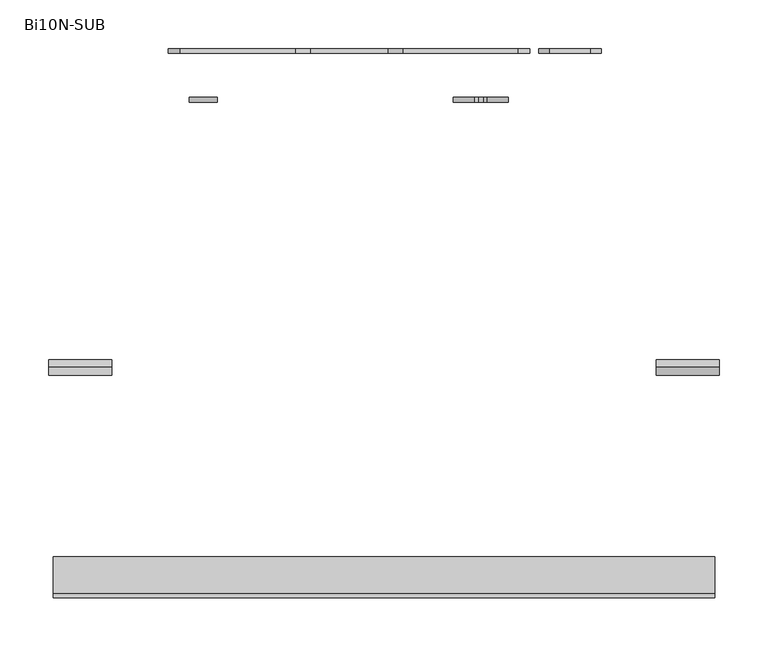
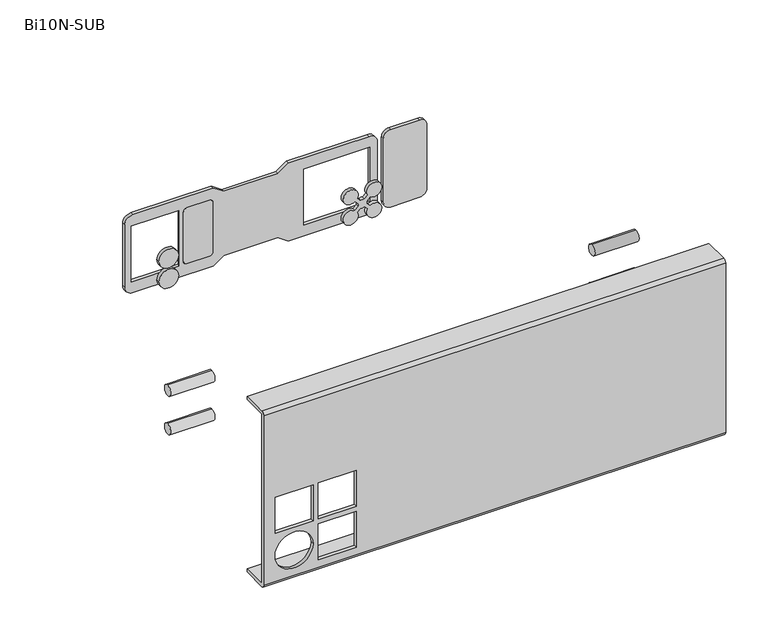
"""IFC4 building model written with IfcOpenShell, lengths in millimetres: proxy geometry, d&b Bi10N-SUB : Bi10N-SUB."""

import ifcopenshell
import ifcopenshell.guid

model = None  # the IFC model being written
_history = None  # IfcOwnerHistory: only IFC2X3 demands one
_inside = {}  # id of a spatial element -> (the spatial element, [elements in it])
_under = {}  # id of a project, library or spatial element -> (it, [spatial elements below it])
_declared = {}  # id of a project -> (the project, [libraries it declares])
_typed = {}  # id of a type object -> (the type object, [elements of that type])
_made_of = {}  # id of a material, layer set ... -> (it, [elements and type objects made of it])


def new_model(schema):
    """Start an empty IFC model of exactly this schema.

    Asked for "IFC4X3", IfcOpenShell would pick the latest addendum, in which some entities
    have other attributes; the version numbers below select the first issue.
    IFC2X3 requires an IfcOwnerHistory on every rooted entity: one is made here for all.
    """
    global model, _history
    if schema == "IFC4X3":
        model = ifcopenshell.file(schema_version=(4, 3, 0, 0))
    else:
        model = ifcopenshell.file(schema=schema)
    _inside.clear()
    _under.clear()
    _declared.clear()
    _typed.clear()
    _made_of.clear()
    _history = None
    if model.schema == "IFC2X3":
        org = make("IfcOrganization", Name="unknown")
        user = make(
            "IfcPersonAndOrganization",
            ThePerson=make("IfcPerson", FamilyName="unknown"),
            TheOrganization=org,
        )
        app = make(
            "IfcApplication",
            ApplicationDeveloper=org,
            Version="unknown",
            ApplicationFullName="unknown",
            ApplicationIdentifier="unknown",
        )
        _history = make(
            "IfcOwnerHistory",
            OwningUser=user,
            OwningApplication=app,
            ChangeAction="ADDED",
            CreationDate=0,
        )
    return model


def make(cls, **values):
    """One entity of the class cls with the attributes given. An attribute that is None is left unset."""
    return model.create_entity(
        cls, **{name: value for name, value in values.items() if value is not None}
    )


def rooted(cls, **values):
    """An entity with a GlobalId (a new one), such as an element, a storey or a relation."""
    return make(cls, GlobalId=ifcopenshell.guid.new(), OwnerHistory=_history, **values)


def si_unit(unit_type, name, prefix=None):
    """IfcSIUnit, for example si_unit("LENGTHUNIT", "METRE", prefix="MILLI")."""
    return make("IfcSIUnit", UnitType=unit_type, Prefix=prefix, Name=name)


def assignment(units):
    """IfcUnitAssignment: the units of a project."""
    return None if units is None else make("IfcUnitAssignment", Units=units)


def point(xyz):
    """IfcCartesianPoint."""
    return None if xyz is None else make("IfcCartesianPoint", Coordinates=xyz)


def direction(xyz):
    """IfcDirection."""
    return None if xyz is None else make("IfcDirection", DirectionRatios=xyz)


def frame(location, z_axis=None, x_axis=None):
    """IfcAxis2Placement3D, a coordinate frame: its origin and axes. An axis left out is left unset."""
    return make(
        "IfcAxis2Placement3D",
        Location=point(location),
        Axis=direction(z_axis),
        RefDirection=direction(x_axis),
    )


def frame_2d(location, x_axis=None):
    """IfcAxis2Placement2D, a coordinate frame in the plane: its origin and x axis."""
    return make(
        "IfcAxis2Placement2D", Location=point(location), RefDirection=direction(x_axis)
    )


def origin():
    """The frame at (0, 0, 0) with its axes left unset."""
    return frame((0.0, 0.0, 0.0))


def place(relative_to, where):
    """IfcLocalPlacement: puts the frame where relative to a parent placement (None: the world)."""
    return make(
        "IfcLocalPlacement", PlacementRelTo=relative_to, RelativePlacement=where
    )


def context(
    kind, dimensions, precision=None, world=None, true_north=None, identifier=None
):
    """IfcGeometricRepresentationContext, for example the 3D "Model" context."""
    return make(
        "IfcGeometricRepresentationContext",
        ContextIdentifier=identifier,
        ContextType=kind,
        CoordinateSpaceDimension=dimensions,
        Precision=precision,
        WorldCoordinateSystem=world,
        TrueNorth=true_north,
    )


def project(units=None, contexts=None):
    """IfcProject with its units and contexts."""
    return rooted(
        "IfcProject",
        Name="project",
        RepresentationContexts=contexts,
        UnitsInContext=assignment(units),
    )


def spatial(cls, under=None, at=None, **own):
    """A site, building, storey or space (cls), placed at a placement, below another one or the project."""
    s = rooted(cls, ObjectPlacement=at, **own)
    if under is not None:
        _under.setdefault(under.id(), (under, []))[1].append(s)
    return s


def polyline(points):
    """IfcPolyline through the points."""
    return make("IfcPolyline", Points=[point(p) for p in points])


def circle_curve(where, radius):
    """IfcCircle in the frame where."""
    return make("IfcCircle", Position=where, Radius=radius)


def trimmed(basis, trim1, trim2, sense, master):
    """IfcTrimmedCurve: the piece of a basis curve between two trims."""
    return make(
        "IfcTrimmedCurve",
        BasisCurve=basis,
        Trim1=trim1,
        Trim2=trim2,
        SenseAgreement=sense,
        MasterRepresentation=master,
    )


def segment(curve, same_sense, transition):
    """IfcCompositeCurveSegment."""
    return make(
        "IfcCompositeCurveSegment",
        Transition=transition,
        SameSense=same_sense,
        ParentCurve=curve,
    )


def composite_curve(segments, self_intersect=None):
    """IfcCompositeCurve: segments joined end to end."""
    return make("IfcCompositeCurve", Segments=segments, SelfIntersect=self_intersect)


def outline(outer, holes=None, kind="AREA"):
    """IfcArbitraryClosedProfileDef: a profile drawn as a closed curve; with holes, ...WithVoids."""
    if holes is None:
        return make("IfcArbitraryClosedProfileDef", ProfileType=kind, OuterCurve=outer)
    return make(
        "IfcArbitraryProfileDefWithVoids",
        ProfileType=kind,
        OuterCurve=outer,
        InnerCurves=holes,
    )


def extrude(swept, where, along, depth):
    """IfcExtrudedAreaSolid: the profile swept, set in the frame where, extruded along a direction by depth."""
    return make(
        "IfcExtrudedAreaSolid",
        SweptArea=swept,
        Position=where,
        ExtrudedDirection=direction(along),
        Depth=depth,
    )


def shape(context_of_items, identifier, shape_type, items):
    """IfcShapeRepresentation: the items that make up one representation, for example the "Body"."""
    return make(
        "IfcShapeRepresentation",
        ContextOfItems=context_of_items,
        RepresentationIdentifier=identifier,
        RepresentationType=shape_type,
        Items=items,
    )


def source(mapping_origin, context_of_items, identifier, shape_type, items):
    """IfcRepresentationMap: a shape defined once, which mapped items show again and again."""
    return make(
        "IfcRepresentationMap",
        MappingOrigin=mapping_origin,
        MappedRepresentation=shape(context_of_items, identifier, shape_type, items),
    )


def transform(
    local_origin,
    x_axis=None,
    y_axis=None,
    z_axis=None,
    scale=None,
    scale2=None,
    scale3=None,
    uniform=True,
):
    """IfcCartesianTransformationOperator3D, or its non-uniform kind. x_axis, y_axis, z_axis: its Axis1, 2, 3."""
    if uniform:
        return make(
            "IfcCartesianTransformationOperator3D",
            Axis1=direction(x_axis),
            Axis2=direction(y_axis),
            LocalOrigin=point(local_origin),
            Scale=scale,
            Axis3=direction(z_axis),
        )
    return make(
        "IfcCartesianTransformationOperator3DnonUniform",
        Axis1=direction(x_axis),
        Axis2=direction(y_axis),
        LocalOrigin=point(local_origin),
        Scale=scale,
        Axis3=direction(z_axis),
        Scale2=scale2,
        Scale3=scale3,
    )


def mapped(mapping_source, mapping_target):
    """IfcMappedItem: shows the shape of a source again, moved by a transform."""
    return make(
        "IfcMappedItem", MappingSource=mapping_source, MappingTarget=mapping_target
    )


def made_of(thing, what):
    """Note that an element or type object is made of a material, layer set ...; save() writes the relation."""
    if what is not None:
        _made_of.setdefault(what.id(), (what, []))[1].append(thing)
    return thing


def element(
    cls,
    number,
    at=None,
    inside=None,
    cuts=None,
    type_object=None,
    material=None,
    context=None,
    identifier="Body",
    shape_type=None,
    held_by="IfcProductDefinitionShape",
    body=None,
    shapes=None,
    **own,
):
    """One element of the class cls, such as IfcWall. Its Tag is "e" and its number.

    at: its placement. inside: the storey or other place that contains it. cuts: it is an
    opening in that element (IfcRelVoidsElement). A single representation is given by context,
    identifier, shape_type and body (its items); several are given by shapes. held_by: the class
    of the entity that holds the representations. save() writes the other relations.
    """
    e = rooted(cls, Tag="e%d" % number, ObjectPlacement=at, **own)
    if body is not None:
        shapes = [shape(context, identifier, shape_type, body)]
    if shapes is not None:
        e.Representation = make(held_by, Representations=shapes)
    if inside is not None:
        _inside.setdefault(inside.id(), (inside, []))[1].append(e)
    if cuts is not None:
        rooted(
            "IfcRelVoidsElement", RelatingBuildingElement=cuts, RelatedOpeningElement=e
        )
    if type_object is not None:
        _typed.setdefault(type_object.id(), (type_object, []))[1].append(e)
    return made_of(e, material)


def aggregate(whole, parts):
    """IfcRelAggregates: a whole, such as a stair, and the parts it consists of."""
    return rooted("IfcRelAggregates", RelatingObject=whole, RelatedObjects=parts)


def save(model, path):
    """Write the relations noted so far, then the file.

    IfcRelAggregates (storeys below a building ...), IfcRelContainedInSpatialStructure (elements
    in a storey), IfcRelDefinesByType, IfcRelAssociatesMaterial and IfcRelDeclares: one each for
    every whole, place, type object, material and project.
    """
    for whole, parts in _under.values():
        aggregate(whole, parts)
    for where, things in _inside.values():
        rooted(
            "IfcRelContainedInSpatialStructure",
            RelatedElements=things,
            RelatingStructure=where,
        )
    for kind, things in _typed.values():
        rooted("IfcRelDefinesByType", RelatedObjects=things, RelatingType=kind)
    for what, things in _made_of.values():
        rooted("IfcRelAssociatesMaterial", RelatedObjects=things, RelatingMaterial=what)
    for by, libraries in _declared.values():
        rooted("IfcRelDeclares", RelatingContext=by, RelatedDefinitions=libraries)
    model.write(path)


def plane_surface(at):
    """IfcPlane: the flat surface through the origin of the frame at, square to its z axis."""
    return make("IfcPlane", Position=at)


def cylinder_surface(at, radius):
    """IfcCylindricalSurface: all points at the distance radius from the z axis of the frame at."""
    return make("IfcCylindricalSurface", Position=at, Radius=radius)


def revolved_surface(curve, axis_point, axis_direction):
    """IfcSurfaceOfRevolution: the curve turned about the line through axis_point along axis_direction."""
    return make(
        "IfcSurfaceOfRevolution",
        SweptCurve=make("IfcArbitraryOpenProfileDef", ProfileType="CURVE", Curve=curve),
        AxisPosition=make("IfcAxis1Placement", Location=point(axis_point), Axis=direction(axis_direction)),
    )


def advanced_brep(points, edges, surfaces, faces):
    """IfcAdvancedBrep: a solid bounded by faces that lie on surfaces and meet in shared edges.

    An edge is (start, end): straight between two places in points (the first is 0);
    or (start, end, curve); or (start, end, curve, False) where it runs against its curve.
    A face is (place in surfaces, loops), or (place, loops, False) where it looks against
    its surface's normal. A loop lists edges by number (the first is 1), with a minus sign
    where the edge is run from its end to its start. The first loop is the outer one.
    """
    corners = [point(p) for p in points]
    vertices = [make("IfcVertexPoint", VertexGeometry=c) for c in corners]
    made = []
    for start, end, *more in edges:
        made.append(
            make(
                "IfcEdgeCurve",
                EdgeStart=vertices[start],
                EdgeEnd=vertices[end],
                EdgeGeometry=more[0] if more else make("IfcPolyline", Points=[corners[start], corners[end]]),
                SameSense=more[1] if len(more) > 1 else True,
            )
        )
    hull = []
    for where, loops, *sense in faces:
        bounds = []
        for j, loop in enumerate(loops):
            ring = [make("IfcOrientedEdge", EdgeElement=made[abs(k) - 1], Orientation=k > 0) for k in loop]
            bounds.append(
                make(
                    "IfcFaceOuterBound" if j == 0 else "IfcFaceBound",
                    Bound=make("IfcEdgeLoop", EdgeList=ring),
                    Orientation=True,
                )
            )
        hull.append(make("IfcAdvancedFace", Bounds=bounds, FaceSurface=surfaces[where], SameSense=sense[0] if sense else True))
    return make("IfcAdvancedBrep", Outer=make("IfcClosedShell", CfsFaces=hull))


def bi10n_sub_a82419cd(model_context):
    return source(origin(), model_context, "Body", "SolidModel", [
        extrude(outline(composite_curve([segment(trimmed(circle_curve(frame_2d((156.4999199, 2314.0000039)), 14.5), [point((156.4999199, 2328.5000039))], [point((156.4999199, 2299.5000039))], False, "CARTESIAN"), True, "CONTINUOUS"), segment(trimmed(circle_curve(frame_2d((156.4999199, 2314.0000039)), 14.5), [point((156.4999199, 2299.5000039))], [point((156.4999199, 2328.5000039))], False, "CARTESIAN"), True, "CONTINUOUS")], self_intersect=False)), frame((0.0, 449.0471889, 0.0), z_axis=(0.0, 1.0, 0.0), x_axis=(0.0, 0.0, 1.0)), (0.0, 0.0, 1.0), 5.2034084),
        extrude(outline(composite_curve([segment(trimmed(circle_curve(frame_2d((124.9999199, 2314.0000958)), 14.5), [point((124.9999199, 2328.5000958))], [point((124.9999199, 2299.5000958))], False, "CARTESIAN"), True, "CONTINUOUS"), segment(trimmed(circle_curve(frame_2d((124.9999199, 2314.0000958)), 14.5), [point((124.9999199, 2299.5000958))], [point((124.9999199, 2328.5000958))], False, "CARTESIAN"), True, "CONTINUOUS")], self_intersect=False)), frame((0.0, 449.0471889, 0.0), z_axis=(0.0, 1.0, 0.0), x_axis=(0.0, 0.0, 1.0)), (0.0, 0.0, 1.0), 5.2034084),
        extrude(outline(composite_curve([segment(polyline([(135.0668453, 2610.7876173), (139.8025463, 2605.6079468)]), True, "CONTINUOUS"), segment(trimmed(circle_curve(frame_2d((141.9996546, 2599.4998911)), 6.4911963), [point((139.8025463, 2605.6079468))], [point((144.1972827, 2605.6077598))], False, "CARTESIAN"), True, "CONTINUOUS"), segment(polyline([(144.1972827, 2605.6077598), (148.9331547, 2610.7876173)]), True, "CONTINUOUS"), segment(trimmed(circle_curve(frame_2d((158.0003519, 2616.9998899)), 10.9911963), [point((148.9331547, 2610.7876173))], [point((152.623298, 2607.4137704))], False, "CARTESIAN"), True, "CONTINUOUS"), segment(polyline([(152.623298, 2607.4137704), (147.8871389, 2602.2335989)]), True, "CONTINUOUS"), segment(trimmed(circle_curve(frame_2d((141.9996546, 2599.4998911)), 6.4911963), [point((147.8871389, 2602.2335989))], [point((147.8871389, 2596.7661832))], False, "CARTESIAN"), True, "CONTINUOUS"), segment(polyline([(147.8871389, 2596.7661832), (152.623298, 2591.5860117)]), True, "CONTINUOUS"), segment(trimmed(circle_curve(frame_2d((158.0003519, 2581.9998922)), 10.9911963), [point((152.623298, 2591.5860117))], [point((148.9331547, 2588.2121648))], False, "CARTESIAN"), True, "CONTINUOUS"), segment(polyline([(148.9331547, 2588.2121648), (144.1972827, 2593.3920224)]), True, "CONTINUOUS"), segment(trimmed(circle_curve(frame_2d((141.9996546, 2599.4998911)), 6.4911963), [point((144.1972827, 2593.3920224))], [point((139.8025463, 2593.3918354))], False, "CARTESIAN"), True, "CONTINUOUS"), segment(polyline([(139.8025463, 2593.3918354), (135.0668453, 2588.2121648)]), True, "CONTINUOUS"), segment(trimmed(circle_curve(frame_2d((125.9996481, 2581.9998922)), 10.9911963), [point((135.0668453, 2588.2121648))], [point((131.376702, 2591.5860117))], False, "CARTESIAN"), True, "CONTINUOUS"), segment(polyline([(131.376702, 2591.5860117), (136.112403, 2596.7656822)]), True, "CONTINUOUS"), segment(trimmed(circle_curve(frame_2d((141.9996546, 2599.4998911)), 6.4911963), [point((136.112403, 2596.7656822))], [point((136.112403, 2602.2340999))], False, "CARTESIAN"), True, "CONTINUOUS"), segment(polyline([(136.112403, 2602.2340999), (131.376702, 2607.4137704)]), True, "CONTINUOUS"), segment(trimmed(circle_curve(frame_2d((125.9996481, 2616.9998899)), 10.9911963), [point((131.376702, 2607.4137704))], [point((135.0668453, 2610.7876173))], False, "CARTESIAN"), True, "CONTINUOUS")], self_intersect=False)), frame((0.0, 449.0471889, 0.0), z_axis=(0.0, 1.0, 0.0), x_axis=(0.0, 0.0, 1.0)), (0.0, 0.0, 1.0), 5.2034084),
        advanced_brep(
        [(2840.2, -60.7494027, 10.0), (2840.2, -55.7494027, 5.0), (2840.2, -18.2494027, 5.0), (2840.2, -18.2494027, 10.0), (2840.2, -55.7494027, 10.0), (2840.2, -55.7494027, 274.0), (2840.2, -18.2494027, 274.0), (2840.2, -18.2494027, 279.0), (2840.2, -55.7494027, 279.0), (2840.2, -60.7494027, 274.0), (2159.8, -60.7494027, 10.0), (2159.8, -60.7494027, 274.0), (2159.8, -55.7494027, 279.0), (2159.8, -18.2494027, 279.0), (2159.8, -18.2494027, 274.0), (2159.8, -55.7494027, 274.0), (2159.8, -55.7494027, 10.0), (2159.8, -18.2494027, 10.0), (2159.8, -18.2494027, 5.0), (2159.8, -55.7494027, 5.0), (2232.3, -55.7494027, 85.5), (2232.3, -55.7494027, 141.5), (2176.3, -55.7494027, 141.5), (2176.3, -55.7494027, 85.5), (2296.3, -55.7494027, 85.5), (2296.3, -55.7494027, 141.5), (2240.3, -55.7494027, 141.5), (2240.3, -55.7494027, 85.5), (2296.3, -55.7494027, 21.5), (2296.3, -55.7494027, 77.5), (2240.3, -55.7494027, 77.5), (2240.3, -55.7494027, 21.5), (2176.3, -55.7494027, 49.5), (2232.3, -55.7494027, 49.5), (2232.3, -60.7494027, 141.5), (2232.3, -60.7494027, 85.5), (2176.3, -60.7494027, 85.5), (2176.3, -60.7494027, 141.5), (2296.3, -60.7494027, 141.5), (2296.3, -60.7494027, 85.5), (2240.3, -60.7494027, 85.5), (2240.3, -60.7494027, 141.5), (2296.3, -60.7494027, 77.5), (2296.3, -60.7494027, 21.5), (2240.3, -60.7494027, 21.5), (2240.3, -60.7494027, 77.5), (2232.3, -60.7494027, 49.5), (2176.3, -60.7494027, 49.5)],
        [
            (0, 1, circle_curve(frame((2840.2, -55.7494027, 10.0), z_axis=(1.0, 0.0, 0.0), x_axis=(0.0, 1.0, 0.0)), 5.0)),
            (1, 2),
            (2, 3),
            (3, 4),
            (4, 5),
            (5, 6),
            (6, 7),
            (7, 8),
            (8, 9, circle_curve(frame((2840.2, -55.7494027, 274.0), z_axis=(1.0, 0.0, 0.0), x_axis=(0.0, 1.0, 0.0)), 5.0)),
            (9, 0),
            (10, 11),
            (11, 12, circle_curve(frame((2159.8, -55.7494027, 274.0), z_axis=(-1.0, 0.0, 0.0), x_axis=(0.0, 1.0, 0.0)), 5.0)),
            (12, 13),
            (13, 14),
            (14, 15),
            (15, 16),
            (16, 17),
            (17, 18),
            (18, 19),
            (19, 10, circle_curve(frame((2159.8, -55.7494027, 10.0), z_axis=(-1.0, 0.0, 0.0), x_axis=(0.0, 1.0, 0.0)), 5.0)),
            (4, 16),
            (15, 5),
            (20, 21),
            (21, 22),
            (22, 23),
            (23, 20),
            (24, 25),
            (25, 26),
            (26, 27),
            (27, 24),
            (28, 29),
            (29, 30),
            (30, 31),
            (31, 28),
            (32, 33, circle_curve(frame((2204.3, -55.7494027, 49.5), z_axis=(0.0, -1.0, 0.0), x_axis=(-1.0, 0.0, 0.0)), 28.0)),
            (33, 32, circle_curve(frame((2204.3, -55.7494027, 49.5), z_axis=(0.0, -1.0, 0.0), x_axis=(-1.0, 0.0, 0.0)), 28.0)),
            (14, 6),
            (9, 11),
            (10, 0),
            (34, 35),
            (35, 36),
            (36, 37),
            (37, 34),
            (38, 39),
            (39, 40),
            (40, 41),
            (41, 38),
            (42, 43),
            (43, 44),
            (44, 45),
            (45, 42),
            (46, 47, circle_curve(frame((2204.3, -60.7494027, 49.5), z_axis=(0.0, 1.0, 0.0), x_axis=(-1.0, 0.0, 0.0)), 28.0)),
            (47, 46, circle_curve(frame((2204.3, -60.7494027, 49.5), z_axis=(0.0, 1.0, 0.0), x_axis=(-1.0, 0.0, 0.0)), 28.0)),
            (34, 21),
            (20, 35),
            (23, 36),
            (37, 22),
            (38, 25),
            (24, 39),
            (27, 40),
            (26, 41),
            (42, 29),
            (28, 43),
            (31, 44),
            (30, 45),
            (46, 33),
            (32, 47),
            (3, 17),
            (13, 7),
            (12, 8),
            (19, 1),
            (18, 2),
        ],
        [
            plane_surface(frame((2840.2, -50.7494027, 10.0), z_axis=(1.0, 0.0, 0.0), x_axis=(0.0, 0.0, 1.0))),
            plane_surface(frame((2159.8, -50.7494027, 10.0), z_axis=(-1.0, 0.0, 0.0), x_axis=(0.0, 0.0, -1.0))),
            plane_surface(frame((2840.2, -55.7494027, 10.0), z_axis=(0.0, 1.0, 0.0), x_axis=(-1.0, 0.0, 0.0))),
            plane_surface(frame((2840.2, -55.7494027, 274.0), z_axis=(0.0, 0.0, -1.0), x_axis=(-1.0, 0.0, 0.0))),
            plane_surface(frame((2840.2, -60.7494027, 274.0), z_axis=(0.0, -1.0, 0.0), x_axis=(-1.0, 0.0, 0.0))),
            plane_surface(frame((2232.3, -50.7494027, 141.5), z_axis=(-1.0, 0.0, 0.0), x_axis=(0.0, -1.0, 0.0))),
            plane_surface(frame((2232.3, -50.7494027, 85.5), z_axis=(0.0, 0.0, 1.0), x_axis=(0.0, -1.0, 0.0))),
            plane_surface(frame((2176.3, -50.7494027, 141.5), z_axis=(0.0, 0.0, -1.0), x_axis=(0.0, -1.0, 0.0))),
            plane_surface(frame((2296.3, -50.7494027, 141.5), z_axis=(-1.0, 0.0, 0.0), x_axis=(0.0, -1.0, 0.0))),
            plane_surface(frame((2296.3, -50.7494027, 85.5), z_axis=(0.0, 0.0, 1.0), x_axis=(0.0, -1.0, 0.0))),
            plane_surface(frame((2240.3, -50.7494027, 85.5), z_axis=(1.0, 0.0, 0.0), x_axis=(0.0, -1.0, 0.0))),
            plane_surface(frame((2240.3, -50.7494027, 141.5), z_axis=(0.0, 0.0, -1.0), x_axis=(0.0, -1.0, 0.0))),
            plane_surface(frame((2296.3, -50.7494027, 77.5), z_axis=(-1.0, 0.0, 0.0), x_axis=(0.0, -1.0, 0.0))),
            plane_surface(frame((2296.3, -50.7494027, 21.5), z_axis=(0.0, 0.0, 1.0), x_axis=(0.0, -1.0, 0.0))),
            plane_surface(frame((2240.3, -50.7494027, 21.5), z_axis=(1.0, 0.0, 0.0), x_axis=(0.0, -1.0, 0.0))),
            plane_surface(frame((2240.3, -50.7494027, 77.5), z_axis=(0.0, 0.0, -1.0), x_axis=(0.0, -1.0, 0.0))),
            revolved_surface(polyline([(2176.3, -55.7494027, 49.5), (2176.3, -60.7494027, 49.5)]), (2204.3, -60.7494027, 49.5), (0.0, 1.0, 0.0)),
            plane_surface(frame((2840.2, -18.2494027, 10.0), z_axis=(0.0, 0.0, 1.0), x_axis=(-1.0, 0.0, 0.0))),
            plane_surface(frame((2840.2, -18.2494027, 274.0), z_axis=(0.0, 1.0, 0.0), x_axis=(-1.0, 0.0, 0.0))),
            plane_surface(frame((2840.2, -18.2494027, 279.0), z_axis=(0.0, 0.0, 1.0), x_axis=(-1.0, 0.0, 0.0))),
            cylinder_surface(frame((2159.8, -55.7494027, 10.0), z_axis=(1.0, 0.0, 0.0), x_axis=(0.0, 1.0, 0.0)), 5.0),
            plane_surface(frame((2840.2, -55.7494027, 5.0), z_axis=(0.0, 0.0, -1.0), x_axis=(-1.0, 0.0, 0.0))),
            plane_surface(frame((2840.2, -18.2494027, 5.0), z_axis=(0.0, 1.0, 0.0), x_axis=(-1.0, 0.0, 0.0))),
            cylinder_surface(frame((2159.8, -55.7494027, 274.0), z_axis=(1.0, 0.0, 0.0), x_axis=(0.0, 1.0, 0.0)), 5.0),
            plane_surface(frame((2176.3, -50.7494027, 85.5), z_axis=(1.0, 0.0, 0.0), x_axis=(0.0, -1.0, 0.0))),
        ],
        [
            (0, [[1, 2, 3, 4, 5, 6, 7, 8, 9, 10]]),
            (1, [[11, 12, 13, 14, 15, 16, 17, 18, 19, 20]]),
            (2, [[-5, 21, -16, 22], [23, 24, 25, 26], [27, 28, 29, 30], [31, 32, 33, 34], [35, 36]]),
            (3, [[-6, -22, -15, 37]]),
            (4, [[-10, 38, -11, 39], [40, 41, 42, 43], [44, 45, 46, 47], [48, 49, 50, 51], [52, 53]]),
            (5, [[54, -23, 55, -40]]),
            (6, [[-55, -26, 56, -41]]),
            (7, [[-54, -43, 57, -24]]),
            (8, [[58, -27, 59, -44]]),
            (9, [[-59, -30, 60, -45]]),
            (10, [[-60, -29, 61, -46]]),
            (11, [[-58, -47, -61, -28]]),
            (12, [[62, -31, 63, -48]]),
            (13, [[-63, -34, 64, -49]]),
            (14, [[-64, -33, 65, -50]]),
            (15, [[-62, -51, -65, -32]]),
            (16, [[66, -35, 67, -52]]),
            (16, [[-66, -53, -67, -36]]),
            (17, [[-4, 68, -17, -21]]),
            (18, [[-7, -37, -14, 69]]),
            (19, [[-8, -69, -13, 70]]),
            (20, [[-1, -39, -20, 71]]),
            (21, [[-2, -71, -19, 72]]),
            (22, [[-3, -72, -18, -68]]),
            (23, [[-9, -70, -12, -38]]),
            (24, [[-57, -42, -56, -25]]),
        ],
    ),
        extrude(outline(composite_curve([segment(trimmed(circle_curve(frame_2d((176.2505973, 172.0)), 8.1), [point((176.2505973, 163.9))], [point((176.2505973, 180.1))], False, "CARTESIAN"), True, "CONTINUOUS"), segment(trimmed(circle_curve(frame_2d((176.2505973, 172.0)), 8.1), [point((176.2505973, 180.1))], [point((176.2505973, 163.9))], False, "CARTESIAN"), True, "CONTINUOUS")], self_intersect=False)), frame((2155.0, 0.0, 0.0), z_axis=(1.0, 0.0, 0.0), x_axis=(0.0, 1.0, 0.0)), (0.0, 0.0, 1.0), 65.0),
        extrude(outline(composite_curve([segment(trimmed(circle_curve(frame_2d((176.2505973, 112.0)), 8.1), [point((176.2505973, 103.9))], [point((176.2505973, 120.1))], False, "CARTESIAN"), True, "CONTINUOUS"), segment(trimmed(circle_curve(frame_2d((176.2505973, 112.0)), 8.1), [point((176.2505973, 120.1))], [point((176.2505973, 103.9))], False, "CARTESIAN"), True, "CONTINUOUS")], self_intersect=False)), frame((2155.0, 0.0, 0.0), z_axis=(1.0, 0.0, 0.0), x_axis=(0.0, 1.0, 0.0)), (0.0, 0.0, 1.0), 65.0),
        extrude(outline(composite_curve([segment(trimmed(circle_curve(frame_2d((176.2505973, 172.0)), 8.1), [point((176.2505973, 163.9))], [point((176.2505973, 180.1))], False, "CARTESIAN"), True, "CONTINUOUS"), segment(trimmed(circle_curve(frame_2d((176.2505973, 172.0)), 8.1), [point((176.2505973, 180.1))], [point((176.2505973, 163.9))], False, "CARTESIAN"), True, "CONTINUOUS")], self_intersect=False)), frame((2780.0, 0.0, 0.0), z_axis=(1.0, 0.0, 0.0), x_axis=(0.0, 1.0, 0.0)), (0.0, 0.0, 1.0), 65.0),
        extrude(outline(composite_curve([segment(trimmed(circle_curve(frame_2d((176.2505973, 112.0)), 8.1), [point((176.2505973, 103.9))], [point((176.2505973, 120.1))], False, "CARTESIAN"), True, "CONTINUOUS"), segment(trimmed(circle_curve(frame_2d((176.2505973, 112.0)), 8.1), [point((176.2505973, 120.1))], [point((176.2505973, 103.9))], False, "CARTESIAN"), True, "CONTINUOUS")], self_intersect=False)), frame((2780.0, 0.0, 0.0), z_axis=(1.0, 0.0, 0.0), x_axis=(0.0, 1.0, 0.0)), (0.0, 0.0, 1.0), 65.0),
        extrude(outline(composite_curve([segment(trimmed(circle_curve(frame_2d((180.5005283, 2369.7014503)), 5.0), [point((185.5005283, 2369.7014503))], [point((180.5005283, 2364.7014503))], False, "CARTESIAN"), True, "CONTINUOUS"), segment(polyline([(180.5005283, 2364.7014503), (103.5432161, 2364.7014503)]), True, "CONTINUOUS"), segment(trimmed(circle_curve(frame_2d((103.5432161, 2369.7014503)), 5.0), [point((103.5432161, 2364.7014503))], [point((98.5432161, 2369.7014503))], False, "CARTESIAN"), True, "CONTINUOUS"), segment(polyline([(98.5432161, 2369.7014503), (98.5432161, 2403.2014503)]), True, "CONTINUOUS"), segment(trimmed(circle_curve(frame_2d((103.5432161, 2403.2014503)), 5.0), [point((98.5432161, 2403.2014503))], [point((103.5432161, 2408.2014503))], False, "CARTESIAN"), True, "CONTINUOUS"), segment(polyline([(103.5432161, 2408.2014503), (180.5005283, 2408.2014503)]), True, "CONTINUOUS"), segment(trimmed(circle_curve(frame_2d((180.5005283, 2403.2014503)), 5.0), [point((180.5005283, 2408.2014503))], [point((185.5005283, 2403.2014503))], False, "CARTESIAN"), True, "CONTINUOUS"), segment(polyline([(185.5005283, 2403.2014503), (185.5005283, 2369.7014503)]), True, "CONTINUOUS")], self_intersect=False)), frame((0.0, 499.2505973, 0.0), z_axis=(0.0, 1.0, 0.0), x_axis=(0.0, 0.0, 1.0)), (0.0, 0.0, 1.0), 5.0),
        advanced_brep(
        [(2359.7014503, 504.2505973, 185.5005283), (2357.9303168, 499.2505973, 185.5005283), (2287.8529944, 499.2505973, 185.5005283), (2287.8529944, 504.2505973, 185.5005283), (2359.7014503, 504.2505973, 98.5432161), (2357.9303168, 499.2505973, 98.5432161), (2287.8529944, 504.2505973, 98.5432161), (2287.8529944, 499.2505973, 98.5432161), (2638.1470134, 504.2505973, 202.6470095), (2650.1470134, 504.2505973, 190.6470095), (2650.1470134, 504.2505973, 93.3529905), (2638.1470134, 504.2505973, 81.3529905), (2519.153425, 504.2505973, 81.3529905), (2503.926988, 504.2505973, 91.8529905), (2424.073012, 504.2505973, 91.8529905), (2408.846575, 504.2505973, 81.3529905), (2289.8529944, 504.2505973, 81.3529905), (2277.8529944, 504.2505973, 93.3529905), (2277.8529944, 504.2505973, 190.6470095), (2289.8529944, 504.2505973, 202.6470095), (2408.846575, 504.2505973, 202.6470095), (2424.073012, 504.2505973, 192.1470095), (2503.926988, 504.2505973, 192.1470095), (2519.153425, 504.2505973, 202.6470095), (2369.7014503, 504.2505973, 185.5005283), (2364.7014503, 504.2505973, 180.5005283), (2364.7014503, 504.2505973, 103.5432161), (2369.7014503, 504.2505973, 98.5432161), (2403.2014503, 504.2505973, 98.5432161), (2408.2014503, 504.2505973, 103.5432161), (2408.2014503, 504.2505973, 180.5005283), (2403.2014503, 504.2505973, 185.5005283), (2640.1470134, 504.2505973, 185.5005283), (2539.950208, 504.2505973, 185.5005283), (2539.950208, 504.2505973, 98.5432161), (2640.1470134, 504.2505973, 98.5432161), (2638.1470134, 499.2505973, 202.6470095), (2519.153425, 499.2505973, 202.6470095), (2503.926988, 499.2505973, 192.1470095), (2424.073012, 499.2505973, 192.1470095), (2408.846575, 499.2505973, 202.6470095), (2289.8529944, 499.2505973, 202.6470095), (2277.8529944, 499.2505973, 190.6470095), (2277.8529944, 499.2505973, 93.3529905), (2289.8529944, 499.2505973, 81.3529905), (2408.846575, 499.2505973, 81.3529905), (2424.073012, 499.2505973, 91.8529905), (2503.926988, 499.2505973, 91.8529905), (2519.153425, 499.2505973, 81.3529905), (2638.1470134, 499.2505973, 81.3529905), (2650.1470134, 499.2505973, 93.3529905), (2650.1470134, 499.2505973, 190.6470095), (2369.7014503, 499.2505973, 185.5005283), (2403.2014503, 499.2505973, 185.5005283), (2408.2014503, 499.2505973, 180.5005283), (2408.2014503, 499.2505973, 103.5432161), (2403.2014503, 499.2505973, 98.5432161), (2369.7014503, 499.2505973, 98.5432161), (2364.7014503, 499.2505973, 103.5432161), (2364.7014503, 499.2505973, 180.5005283), (2542.01192, 499.2505973, 185.5005283), (2638.9562346, 499.2505973, 185.5005283), (2638.9562346, 499.2505973, 98.5432161), (2542.01192, 499.2505973, 98.5432161)],
        [
            (0, 1),
            (1, 2),
            (2, 3),
            (3, 0),
            (0, 4),
            (4, 5),
            (5, 1),
            (4, 6),
            (6, 7),
            (7, 5),
            (2, 7),
            (6, 3),
            (8, 9, circle_curve(frame((2638.1470134, 504.2505973, 190.6470095), z_axis=(0.0, 1.0, 0.0), x_axis=(-1.0, 0.0, 0.0)), 12.0)),
            (9, 10),
            (10, 11, circle_curve(frame((2638.1470134, 504.2505973, 93.3529905), z_axis=(0.0, 1.0, 0.0), x_axis=(-1.0, 0.0, 0.0)), 12.0)),
            (11, 12),
            (12, 13),
            (13, 14),
            (14, 15),
            (15, 16),
            (16, 17, circle_curve(frame((2289.8529944, 504.2505973, 93.3529905), z_axis=(0.0, 1.0, 0.0), x_axis=(-1.0, 0.0, 0.0)), 12.0)),
            (17, 18),
            (18, 19, circle_curve(frame((2289.8529944, 504.2505973, 190.6470095), z_axis=(0.0, 1.0, 0.0), x_axis=(-1.0, 0.0, 0.0)), 12.0)),
            (19, 20),
            (20, 21),
            (21, 22),
            (22, 23),
            (23, 8),
            (24, 25, circle_curve(frame((2369.7014503, 504.2505973, 180.5005283), z_axis=(0.0, -1.0, 0.0), x_axis=(-1.0, 0.0, 0.0)), 5.0)),
            (25, 26),
            (26, 27, circle_curve(frame((2369.7014503, 504.2505973, 103.5432161), z_axis=(0.0, -1.0, 0.0), x_axis=(-1.0, 0.0, 0.0)), 5.0)),
            (27, 28),
            (28, 29, circle_curve(frame((2403.2014503, 504.2505973, 103.5432161), z_axis=(0.0, -1.0, 0.0), x_axis=(-1.0, 0.0, 0.0)), 5.0)),
            (29, 30),
            (30, 31, circle_curve(frame((2403.2014503, 504.2505973, 180.5005283), z_axis=(0.0, -1.0, 0.0), x_axis=(-1.0, 0.0, 0.0)), 5.0)),
            (31, 24),
            (32, 33),
            (33, 34),
            (34, 35),
            (35, 32),
            (36, 37),
            (37, 38),
            (38, 39),
            (39, 40),
            (40, 41),
            (41, 42, circle_curve(frame((2289.8529944, 499.2505973, 190.6470095), z_axis=(0.0, -1.0, 0.0), x_axis=(-1.0, 0.0, 0.0)), 12.0)),
            (42, 43),
            (43, 44, circle_curve(frame((2289.8529944, 499.2505973, 93.3529905), z_axis=(0.0, -1.0, 0.0), x_axis=(-1.0, 0.0, 0.0)), 12.0)),
            (44, 45),
            (45, 46),
            (46, 47),
            (47, 48),
            (48, 49),
            (49, 50, circle_curve(frame((2638.1470134, 499.2505973, 93.3529905), z_axis=(0.0, -1.0, 0.0), x_axis=(-1.0, 0.0, 0.0)), 12.0)),
            (50, 51),
            (51, 36, circle_curve(frame((2638.1470134, 499.2505973, 190.6470095), z_axis=(0.0, -1.0, 0.0), x_axis=(-1.0, 0.0, 0.0)), 12.0)),
            (52, 53),
            (53, 54, circle_curve(frame((2403.2014503, 499.2505973, 180.5005283), z_axis=(0.0, 1.0, 0.0), x_axis=(-1.0, 0.0, 0.0)), 5.0)),
            (54, 55),
            (55, 56, circle_curve(frame((2403.2014503, 499.2505973, 103.5432161), z_axis=(0.0, 1.0, 0.0), x_axis=(-1.0, 0.0, 0.0)), 5.0)),
            (56, 57),
            (57, 58, circle_curve(frame((2369.7014503, 499.2505973, 103.5432161), z_axis=(0.0, 1.0, 0.0), x_axis=(-1.0, 0.0, 0.0)), 5.0)),
            (58, 59),
            (59, 52, circle_curve(frame((2369.7014503, 499.2505973, 180.5005283), z_axis=(0.0, 1.0, 0.0), x_axis=(-1.0, 0.0, 0.0)), 5.0)),
            (60, 61),
            (61, 62),
            (62, 63),
            (63, 60),
            (8, 36),
            (51, 9),
            (50, 10),
            (49, 11),
            (48, 12),
            (47, 13),
            (46, 14),
            (45, 15),
            (44, 16),
            (43, 17),
            (42, 18),
            (41, 19),
            (40, 20),
            (39, 21),
            (38, 22),
            (37, 23),
            (24, 52),
            (59, 25),
            (58, 26),
            (57, 27),
            (56, 28),
            (55, 29),
            (54, 30),
            (53, 31),
            (32, 61),
            (60, 33),
            (63, 34),
            (62, 35),
        ],
        [
            plane_surface(frame((2323.7772223, 504.2505973, 185.5005283), z_axis=(0.0, 0.0, -1.0), x_axis=(-1.0, 0.0, 0.0))),
            plane_surface(frame((2359.7014503, 504.2505973, 142.0218722), z_axis=(-0.9426094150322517, 0.3338974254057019, 0.0), x_axis=(0.0, 0.0, 1.0))),
            plane_surface(frame((2323.7772223, 504.2505973, 98.5432161), z_axis=(0.0, 0.0, 1.0), x_axis=(1.0, 0.0, 0.0))),
            plane_surface(frame((2287.8529944, 504.2505973, 142.0218722), z_axis=(1.0, 0.0, 0.0), x_axis=(0.0, 0.0, -1.0))),
            plane_surface(frame((2626.1470134, 504.2505973, 190.6470095), z_axis=(0.0, 1.0, 0.0), x_axis=(0.0, 0.0, 1.0))),
            plane_surface(frame((2626.1470134, 499.2505973, 190.6470095), z_axis=(0.0, -1.0, 0.0), x_axis=(0.0, 0.0, -1.0))),
            cylinder_surface(frame((2638.1470134, 499.2505973, 190.6470095), z_axis=(0.0, 1.0, 0.0), x_axis=(-1.0, 0.0, 0.0)), 12.0),
            plane_surface(frame((2650.1470134, 504.2505973, 190.6470095), z_axis=(1.0, 0.0, 0.0), x_axis=(0.0, -1.0, 0.0))),
            cylinder_surface(frame((2638.1470134, 499.2505973, 93.3529905), z_axis=(0.0, 1.0, 0.0), x_axis=(-1.0, 0.0, 0.0)), 12.0),
            plane_surface(frame((2638.1470134, 504.2505973, 81.3529905), z_axis=(0.0, 0.0, -1.0), x_axis=(0.0, -1.0, 0.0))),
            plane_surface(frame((2519.153425, 504.2505973, 81.3529905), z_axis=(-0.5676966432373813, 0.0, -0.82323782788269), x_axis=(0.0, -1.0, 0.0))),
            plane_surface(frame((2503.926988, 504.2505973, 91.8529905), z_axis=(0.0, 0.0, -1.0), x_axis=(0.0, -1.0, 0.0))),
            plane_surface(frame((2424.073012, 504.2505973, 91.8529905), z_axis=(0.567696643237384, 0.0, -0.8232378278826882), x_axis=(0.0, -1.0, 0.0))),
            plane_surface(frame((2408.846575, 504.2505973, 81.3529905), z_axis=(0.0, 0.0, -1.0), x_axis=(0.0, -1.0, 0.0))),
            cylinder_surface(frame((2289.8529944, 499.2505973, 93.3529905), z_axis=(0.0, 1.0, 0.0), x_axis=(-1.0, 0.0, 0.0)), 12.0),
            plane_surface(frame((2277.8529944, 504.2505973, 93.3529905), z_axis=(-1.0, 0.0, 0.0), x_axis=(0.0, -1.0, 0.0))),
            cylinder_surface(frame((2289.8529944, 499.2505973, 190.6470095), z_axis=(0.0, 1.0, 0.0), x_axis=(-1.0, 0.0, 0.0)), 12.0),
            plane_surface(frame((2289.8529944, 504.2505973, 202.6470095), z_axis=(0.0, 0.0, 1.0), x_axis=(0.0, -1.0, 0.0))),
            plane_surface(frame((2408.846575, 504.2505973, 202.6470095), z_axis=(0.5676966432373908, 0.0, 0.8232378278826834), x_axis=(0.0, -1.0, 0.0))),
            plane_surface(frame((2424.073012, 504.2505973, 192.1470095), z_axis=(0.0, 0.0, 1.0), x_axis=(0.0, -1.0, 0.0))),
            plane_surface(frame((2503.926988, 504.2505973, 192.1470095), z_axis=(-0.567696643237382, 0.0, 0.8232378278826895), x_axis=(0.0, -1.0, 0.0))),
            plane_surface(frame((2519.153425, 504.2505973, 202.6470095), z_axis=(0.0, 0.0, 1.0), x_axis=(0.0, -1.0, 0.0))),
            revolved_surface(polyline([(2364.7014503, 499.2505973, 180.5005283), (2364.7014503, 504.2505973, 180.5005283)]), (2369.7014503, 504.2505973, 180.5005283), (0.0, -1.0, 0.0)),
            plane_surface(frame((2364.7014503, 504.2505973, 180.5005283), z_axis=(1.0, 0.0, 0.0), x_axis=(0.0, -1.0, 0.0))),
            revolved_surface(polyline([(2364.7014503, 499.2505973, 103.5432161), (2364.7014503, 504.2505973, 103.5432161)]), (2369.7014503, 504.2505973, 103.5432161), (0.0, -1.0, 0.0)),
            plane_surface(frame((2369.7014503, 504.2505973, 98.5432161), z_axis=(0.0, 0.0, 1.0), x_axis=(0.0, -1.0, 0.0))),
            revolved_surface(polyline([(2398.2014503, 499.2505973, 103.5432161), (2398.2014503, 504.2505973, 103.5432161)]), (2403.2014503, 504.2505973, 103.5432161), (0.0, -1.0, 0.0)),
            plane_surface(frame((2408.2014503, 504.2505973, 103.5432161), z_axis=(-1.0, 0.0, 0.0), x_axis=(0.0, -1.0, 0.0))),
            revolved_surface(polyline([(2398.2014503, 499.2505973, 180.5005283), (2398.2014503, 504.2505973, 180.5005283)]), (2403.2014503, 504.2505973, 180.5005283), (0.0, -1.0, 0.0)),
            plane_surface(frame((2403.2014503, 504.2505973, 185.5005283), z_axis=(0.0, 0.0, -1.0), x_axis=(0.0, -1.0, 0.0))),
            plane_surface(frame((2590.0486107, 504.2505973, 185.5005283), z_axis=(0.0, 0.0, -1.0), x_axis=(-1.0, 0.0, 0.0))),
            plane_surface(frame((2539.950208, 504.2505973, 142.0218722), z_axis=(0.9244899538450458, 0.38120640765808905, 0.0), x_axis=(0.0, 0.0, -1.0))),
            plane_surface(frame((2590.0486107, 504.2505973, 98.5432161), z_axis=(0.0, 0.0, 1.0), x_axis=(1.0, 0.0, 0.0))),
            plane_surface(frame((2640.1470134, 504.2505973, 142.0218722), z_axis=(-0.9727929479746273, 0.23167624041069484, 0.0), x_axis=(0.0, 0.0, 1.0))),
        ],
        [
            (0, [[1, 2, 3, 4]]),
            (1, [[-1, 5, 6, 7]]),
            (2, [[-6, 8, 9, 10]]),
            (3, [[-3, 11, -9, 12]]),
            (4, [[13, 14, 15, 16, 17, 18, 19, 20, 21, 22, 23, 24, 25, 26, 27, 28], [-4, -12, -8, -5], [29, 30, 31, 32, 33, 34, 35, 36], [37, 38, 39, 40]]),
            (5, [[41, 42, 43, 44, 45, 46, 47, 48, 49, 50, 51, 52, 53, 54, 55, 56], [-2, -7, -10, -11], [57, 58, 59, 60, 61, 62, 63, 64], [65, 66, 67, 68]]),
            (6, [[-13, 69, -56, 70]]),
            (7, [[-14, -70, -55, 71]]),
            (8, [[-15, -71, -54, 72]]),
            (9, [[-16, -72, -53, 73]]),
            (10, [[-17, -73, -52, 74]]),
            (11, [[-18, -74, -51, 75]]),
            (12, [[-19, -75, -50, 76]]),
            (13, [[-20, -76, -49, 77]]),
            (14, [[-21, -77, -48, 78]]),
            (15, [[-22, -78, -47, 79]]),
            (16, [[-23, -79, -46, 80]]),
            (17, [[-24, -80, -45, 81]]),
            (18, [[-25, -81, -44, 82]]),
            (19, [[-26, -82, -43, 83]]),
            (20, [[-27, -83, -42, 84]]),
            (21, [[-28, -84, -41, -69]]),
            (22, [[-29, 85, -64, 86]]),
            (23, [[-30, -86, -63, 87]]),
            (24, [[-31, -87, -62, 88]]),
            (25, [[-32, -88, -61, 89]]),
            (26, [[-33, -89, -60, 90]]),
            (27, [[-34, -90, -59, 91]]),
            (28, [[-35, -91, -58, 92]]),
            (29, [[-36, -92, -57, -85]]),
            (30, [[93, -65, 94, -37]]),
            (31, [[-94, -68, 95, -38]]),
            (32, [[-95, -67, 96, -39]]),
            (33, [[-93, -40, -96, -66]]),
        ],
    ),
        extrude(outline(composite_curve([segment(polyline([(202.2, 2712.8470134), (202.2, 2669.8470134)]), True, "CONTINUOUS"), segment(trimmed(circle_curve(frame_2d((191.7, 2669.8470134)), 10.5), [point((202.2, 2669.8470134))], [point((191.7, 2659.3470134))], False, "CARTESIAN"), True, "CONTINUOUS"), segment(polyline([(191.7, 2659.3470134), (92.3, 2659.3470134)]), True, "CONTINUOUS"), segment(trimmed(circle_curve(frame_2d((92.3, 2669.8470134)), 10.5), [point((92.3, 2659.3470134))], [point((81.8, 2669.8470134))], False, "CARTESIAN"), True, "CONTINUOUS"), segment(polyline([(81.8, 2669.8470134), (81.8, 2712.8470134)]), True, "CONTINUOUS"), segment(trimmed(circle_curve(frame_2d((92.3, 2712.8470134)), 10.5), [point((81.8, 2712.8470134))], [point((92.3, 2723.3470134))], False, "CARTESIAN"), True, "CONTINUOUS"), segment(polyline([(92.3, 2723.3470134), (191.7, 2723.3470134)]), True, "CONTINUOUS"), segment(trimmed(circle_curve(frame_2d((191.7, 2712.8470134)), 10.5), [point((191.7, 2723.3470134))], [point((202.2, 2712.8470134))], False, "CARTESIAN"), True, "CONTINUOUS")], self_intersect=False)), frame((0.0, 499.2505973, 0.0), z_axis=(0.0, 1.0, 0.0), x_axis=(0.0, 0.0, 1.0)), (0.0, 0.0, 1.0), 5.0),
    ])


if __name__ == "__main__":
    model = new_model("IFC4")
    model_context = context("Model", 3, world=origin())
    ifc_project = project(units=[si_unit("LENGTHUNIT", "METRE", prefix="MILLI")], contexts=[model_context])
    site = spatial("IfcSite", under=ifc_project)
    building = spatial("IfcBuilding", under=site)
    placement = place(None, origin())
    bi10n_sub_shape = bi10n_sub_a82419cd(model_context)
    element("IfcBuildingElementProxy", 1, Name="d&b Bi10N-SUB : Bi10N-SUB", ObjectType="d&b Bi10N-SUB : Bi10N-SUB", at=placement, inside=building, context=model_context, shape_type="MappedRepresentation", body=[
        mapped(bi10n_sub_shape, transform((0.0, 0.0, 0.0), x_axis=(1.0, 0.0, 0.0), y_axis=(0.0, 1.0, 0.0), z_axis=(0.0, 0.0, 1.0))),
    ])
    save(model, "model.ifc")
